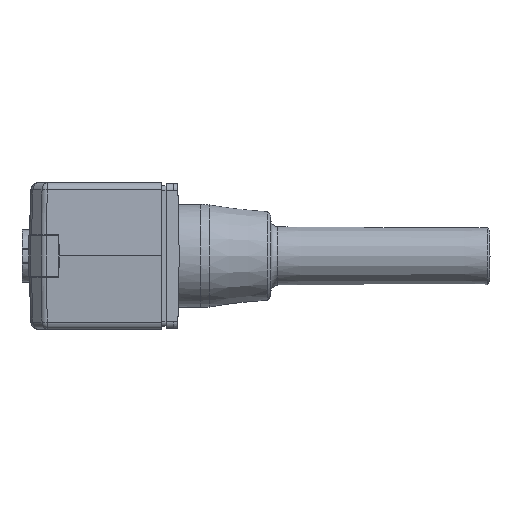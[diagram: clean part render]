
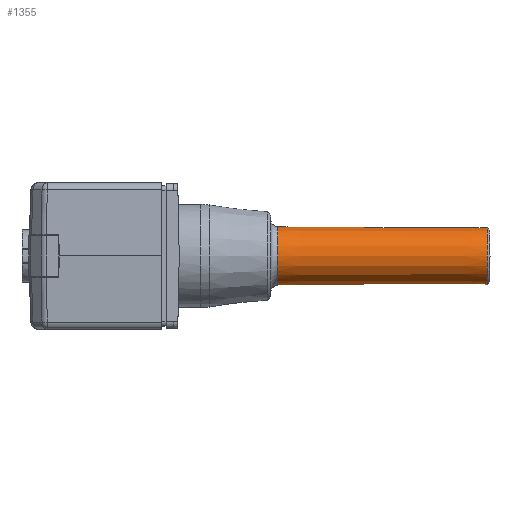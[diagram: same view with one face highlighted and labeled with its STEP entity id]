
A CAD part, left-side view. The second image highlights one B-rep face of the part: STEP entity #1355.
In plain terms, the highlighted conical face has half-angle 0.191 degrees and reference radius 1.974 mm.
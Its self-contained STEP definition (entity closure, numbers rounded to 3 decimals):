
#1355=ADVANCED_FACE('',(#2761,#2762),#2763,.T.);
#2761=FACE_OUTER_BOUND('',#4421,.T.);
#2762=FACE_BOUND('',#4422,.T.);
#2763=CONICAL_SURFACE('',#4423,1.975,0.003);
#4421=EDGE_LOOP('',(#8420));
#4422=EDGE_LOOP('',(#8421));
#4423=AXIS2_PLACEMENT_3D('',#8422,#8423,#8424);
#8420=ORIENTED_EDGE('',*,*,#9992,.T.);
#8421=ORIENTED_EDGE('',*,*,#10432,.F.);
#8422=CARTESIAN_POINT('',(0.0,-15.099,0.0));
#8423=DIRECTION('',(-0.0,1.0,-0.0));
#8424=DIRECTION('',(1.0,0.0,0.0));
#9992=EDGE_CURVE('',#12288,#12288,#12289,.T.);
#10432=EDGE_CURVE('',#12864,#12864,#12865,.T.);
#12288=VERTEX_POINT('',#15764);
#12289=CIRCLE('',#15765,1.998);
#12864=VERTEX_POINT('',#16569);
#12865=CIRCLE('',#16570,1.951);
#15764=CARTESIAN_POINT('',(1.998,-7.948,0.0));
#15765=AXIS2_PLACEMENT_3D('',#17976,#17977,#17978);
#16569=CARTESIAN_POINT('',(-1.951,-22.25,0.));
#16570=AXIS2_PLACEMENT_3D('',#18358,#18359,#18360);
#17976=CARTESIAN_POINT('',(0.0,-7.948,0.0));
#17977=DIRECTION('',(0.0,-1.0,0.0));
#17978=DIRECTION('',(1.0,0.0,0.0));
#18358=CARTESIAN_POINT('',(0.0,-22.25,0.0));
#18359=DIRECTION('',(0.0,-1.0,-0.0));
#18360=DIRECTION('',(-1.0,0.0,0.));
